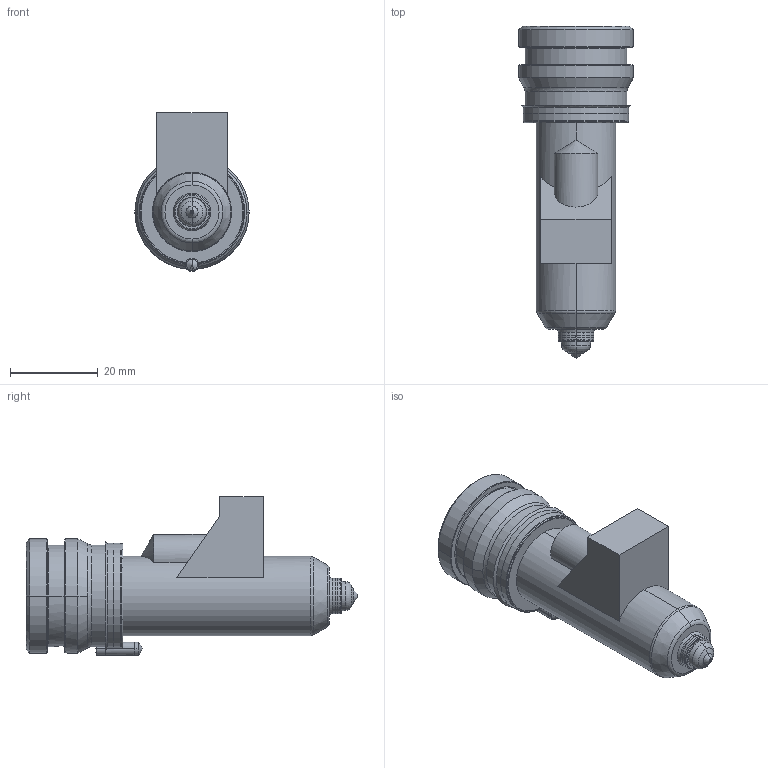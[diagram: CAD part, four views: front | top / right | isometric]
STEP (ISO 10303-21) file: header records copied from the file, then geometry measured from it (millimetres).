
FILE_DESCRIPTION((''),'2;1');
FILE_NAME('TH18057_5-M-1B15-PK-JG','2023-12-14T',('umhib'),('Thermoplay S.p.A.'),'PRO/ENGINEER BY PARAMETRIC TECHNOLOGY CORPORATION, 2017170','PRO/ENGINEER BY PARAMETRIC TECHNOLOGY CORPORATION, 2017170','');
FILE_SCHEMA(('CONFIG_CONTROL_DESIGN'));
Length unit declared in the file: millimetre
Products named in the file (1): TH18057_5-M-1B15-PK-JG
Bounding box: 26 x 75.5 x 36.1 mm (x, y, z)
Volume: 17064.7 mm3; surface area: 13436.7 mm2
Topology: 1 solids, 2 shells, 393 faces, 1003 edges, 615 vertices
Faces by surface type: cylinder 149, plane 87, cone 64, torus 58, bspline 22, sphere 11, extrusion 2
Entity records: 16881 total; most frequent: CARTESIAN_POINT 5198, DIRECTION 2010, ORIENTED_EDGE 1980, EDGE_CURVE 992, AXIS2_PLACEMENT_3D 810, VERTEX_POINT 615, CIRCLE 440, EDGE_LOOP 416
